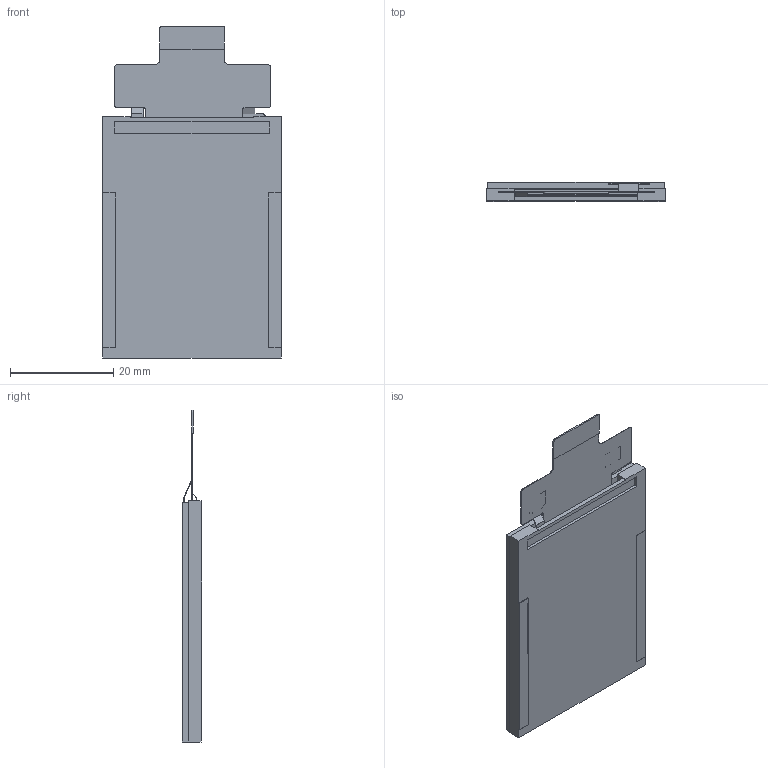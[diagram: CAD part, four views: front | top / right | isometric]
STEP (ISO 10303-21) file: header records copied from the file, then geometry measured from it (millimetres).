
FILE_DESCRIPTION (( 'STEP AP203' ), '1' );
FILE_NAME ('NHD-1.8-128160EF-SSXN-FT_Rev1B.STEP', '2023-07-31T17:05:41', ( '' ), ( '' ), 'SwSTEP 2.0', 'SolidWorks 2019', '' );
FILE_SCHEMA (( 'CONFIG_CONTROL_DESIGN' ));
Length unit declared in the file: millimetre
Products named in the file (1): NHD-1.8-128160EF-SSXN-FT_Rev1B
Bounding box: 34.7 x 3.7 x 64.38 mm (x, y, z)
Volume: 5532.7 mm3; surface area: 8305.9 mm2
Topology: 1 solids, 1 shells, 107 faces, 299 edges, 196 vertices
Faces by surface type: plane 91, cylinder 16
Entity records: 3470 total; most frequent: CARTESIAN_POINT 603, ORIENTED_EDGE 598, DIRECTION 547, EDGE_CURVE 299, LINE 267, VECTOR 267, VERTEX_POINT 196, AXIS2_PLACEMENT_3D 140
